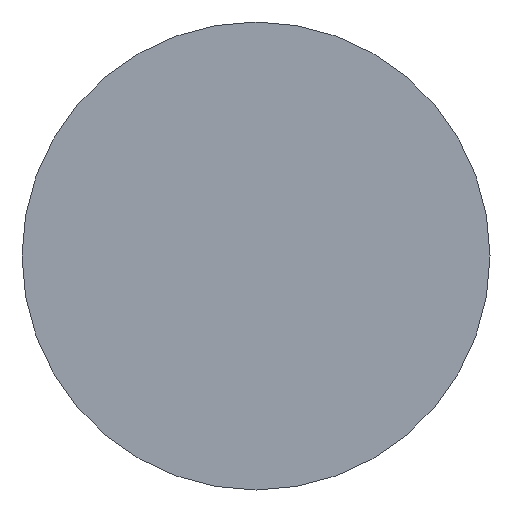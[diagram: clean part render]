
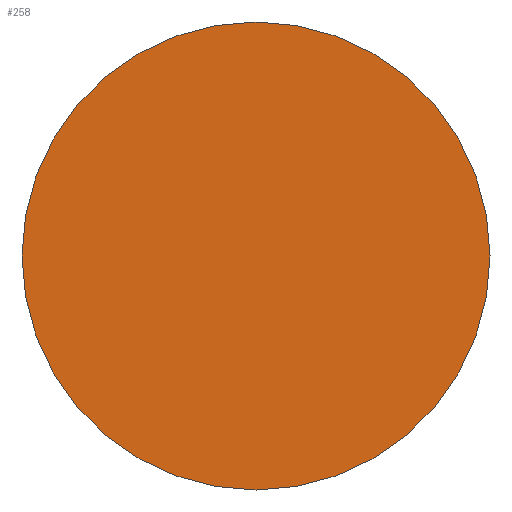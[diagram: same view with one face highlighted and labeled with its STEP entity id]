
A CAD part, left-side view. The second image highlights one B-rep face of the part: STEP entity #258.
In plain terms, the highlighted planar face has unit normal (-1, 0, 0).
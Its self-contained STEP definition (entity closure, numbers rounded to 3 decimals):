
#9 = CARTESIAN_POINT ( 'NONE',  ( 0., 0., 0. ) ) ;
#11 = PLANE ( 'NONE',  #67 ) ;
#56 = ORIENTED_EDGE ( 'NONE', *, *, #153, .F. ) ;
#67 = AXIS2_PLACEMENT_3D ( 'NONE', #99, #158, #268 ) ;
#68 = FACE_OUTER_BOUND ( 'NONE', #110, .T. ) ;
#75 = CARTESIAN_POINT ( 'NONE',  ( 0., -2., 0. ) ) ;
#94 = DIRECTION ( 'NONE',  ( 0., 1., 0. ) ) ;
#99 = CARTESIAN_POINT ( 'NONE',  ( 0., 0., 0. ) ) ;
#103 = CARTESIAN_POINT ( 'NONE',  ( 0., 0., 0. ) ) ;
#107 = EDGE_CURVE ( 'NONE', #271, #141, #112, .T. ) ;
#110 = EDGE_LOOP ( 'NONE', ( #223, #56 ) ) ;
#112 = CIRCLE ( 'NONE', #146, 2. ) ;
#122 = CARTESIAN_POINT ( 'NONE',  ( 0., 2., 0. ) ) ;
#141 = VERTEX_POINT ( 'NONE', #75 ) ;
#145 = DIRECTION ( 'NONE',  ( 1., 0., 0. ) ) ;
#146 = AXIS2_PLACEMENT_3D ( 'NONE', #103, #164, #94 ) ;
#150 = CIRCLE ( 'NONE', #189, 2. ) ;
#153 = EDGE_CURVE ( 'NONE', #141, #271, #150, .T. ) ;
#158 = DIRECTION ( 'NONE',  ( -1., 0., 0. ) ) ;
#164 = DIRECTION ( 'NONE',  ( 1., 0., 0. ) ) ;
#189 = AXIS2_PLACEMENT_3D ( 'NONE', #9, #145, #264 ) ;
#223 = ORIENTED_EDGE ( 'NONE', *, *, #107, .F. ) ;
#258 = ADVANCED_FACE ( 'NONE', ( #68 ), #11, .T. ) ;
#264 = DIRECTION ( 'NONE',  ( 0., 1., 0. ) ) ;
#268 = DIRECTION ( 'NONE',  ( 0., -1., 0. ) ) ;
#271 = VERTEX_POINT ( 'NONE', #122 ) ;
